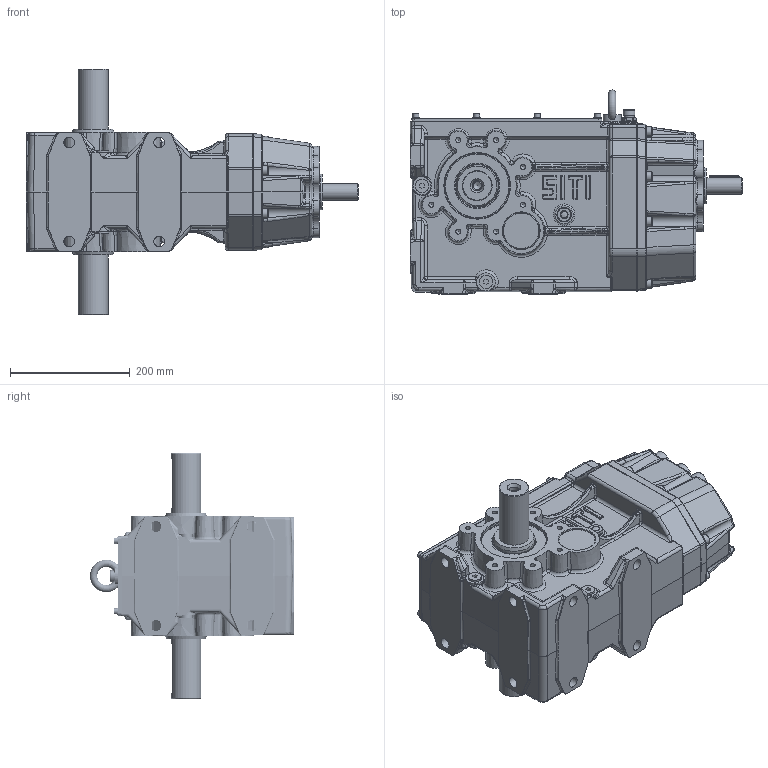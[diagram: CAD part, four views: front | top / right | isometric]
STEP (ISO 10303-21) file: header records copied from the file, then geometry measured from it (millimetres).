
FILE_DESCRIPTION((''),'2;1');
FILE_NAME('C:\Users\m.piscopiello.SITIRIDUTTORI\Desktop\3D x SITO\BH 100\BH_100 MD.stp','2013-05-07T09:16:25',('m.piscopiello'),(''),'Autodesk Inventor 2012','Autodesk Inventor 2012','');
FILE_SCHEMA(('CONFIG_CONTROL_DESIGN'));
Length unit declared in the file: millimetre
Products named in the file (1): BH_100 MD
Bounding box: 553.5 x 339.98 x 410 mm (x, y, z)
Volume: 7303870.5 mm3; surface area: 1413882.3 mm2
Topology: 45 solids, 51 shells, 3396 faces, 8045 edges, 4757 vertices
Faces by surface type: cylinder 1047, plane 943, bspline 720, torus 299, cone 233, sphere 154
Full cylindrical faces by diameter (mm): 4.917 x8, 5 x1, 6 x17, 6.4 x9, 6.647 x8, 7 x8, 8.376 x22, 10 x20, 10.106 x3, 11 x10, 12 x8, 12.5 x8, 13.835 x2, 14.95 x1, 16 x9, 16.6 x7, 17 x2, 18 x8, 19 x1, 19.5 x1, 20 x1, 28 x1, 30 x4, 37.5 x1, 39.377 x1, 39.977 x2, 50 x2, 52 x1, 54.765 x1, 57 x1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
Entity records: 121632 total; most frequent: CARTESIAN_POINT 45816, DIRECTION 14715, ORIENTED_EDGE 14662, EDGE_CURVE 7331, AXIS2_PLACEMENT_3D 6070, VERTEX_POINT 4586, EDGE_LOOP 4025, STYLED_ITEM 3441
